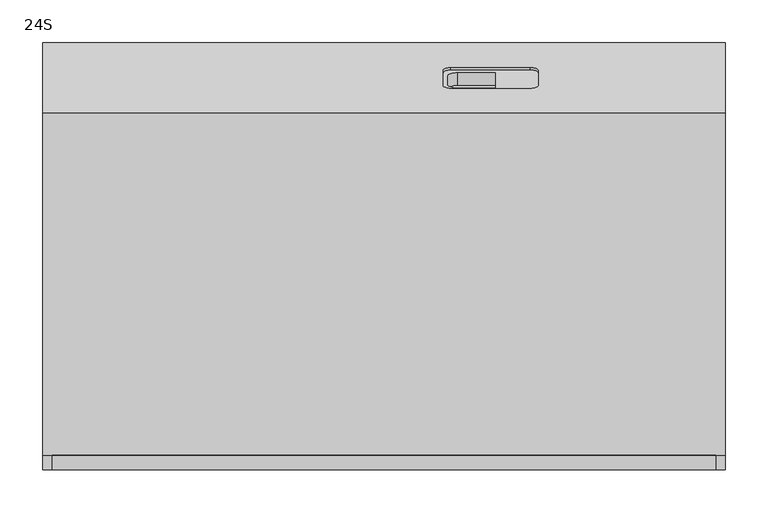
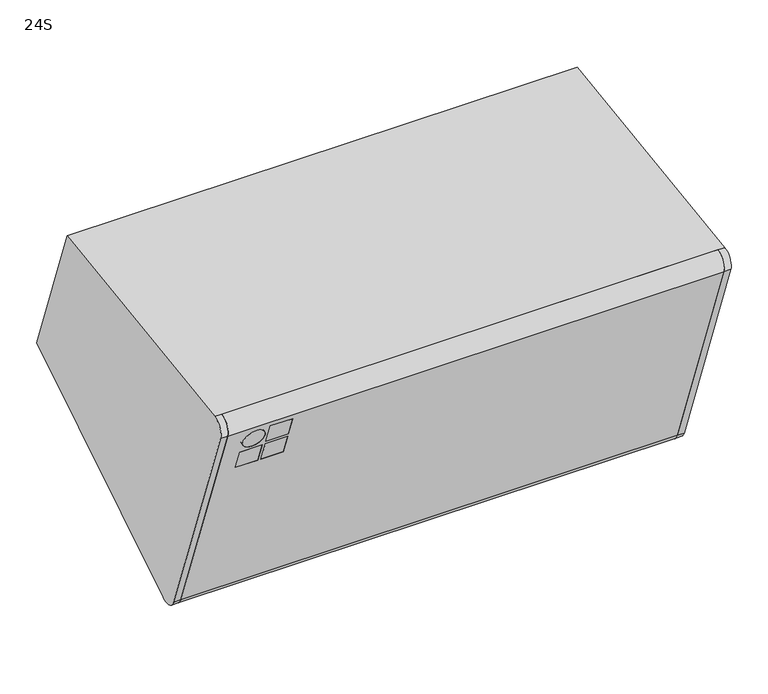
"""IFC4 building model written with IfcOpenShell, lengths in millimetres: proxy geometry, d&b xS-Series 24S Point Source : 24S."""

from ifc_helpers import new_model, si_unit, point, frame, frame_2d, origin, place, context, project, spatial, polyline, circle_curve, trimmed, segment, composite_curve, outline, extrude, source, transform, mapped, element, save
from ifc_brep_helpers import plane_surface, cylinder_surface, revolved_surface, advanced_brep


def proxy_24s_46e50888(model_context):
    return source(origin(), model_context, "Body", "SolidModel", [
        extrude(outline(composite_curve([segment(polyline([(-242.9404064, 124.1083071), (-106.3278662, -251.2315621)]), True, "CONTINUOUS"), segment(trimmed(circle_curve(frame_2d((-115.1645619, -239.1108027)), 15.0), [point((-106.3278662, -251.2315621))], [point((-129.2599512, -244.2411048))], False, "CARTESIAN"), True, "CONTINUOUS"), segment(polyline([(-129.2599512, -244.2411048), (-256.0140233, 104.0128461)]), True, "CONTINUOUS"), segment(trimmed(circle_curve(frame_2d((-241.918634, 109.1431482)), 15.0), [point((-256.0140233, 104.0128461))], [point((-242.9404064, 124.1083071))], False, "CARTESIAN"), True, "CONTINUOUS")], self_intersect=False)), frame((-389.0, 0.0, 0.0), z_axis=(1.0, 0.0, 0.0), x_axis=(0.0, 1.0, 0.0)), (0.0, 0.0, 1.0), 778.0),
        advanced_brep(
        [(-285.0, -245.32158, 60.0165774), (-285.0, -240.6231169, 61.7266781), (-320.0, -240.6231169, 61.7266781), (-320.0, -245.32158, 60.0165774), (-320.0, -252.5938219, 94.6159199), (-320.0, -257.292285, 92.9058192), (-285.0, -252.5938219, 94.6159199), (-285.0, -257.292285, 92.9058192), (-285.0, -231.6407742, 22.4288726), (-285.0, -226.9423111, 24.1389733), (-320.0, -226.9423111, 24.1389733), (-320.0, -231.6407742, 22.4288726), (-320.0, -238.9130161, 57.028215), (-320.0, -243.6114792, 55.3181143), (-285.0, -238.9130161, 57.028215), (-285.0, -243.6114792, 55.3181143), (-325.0, -231.6407742, 22.4288726), (-325.0, -226.9423111, 24.1389733), (-360.0, -226.9423111, 24.1389733), (-360.0, -231.6407742, 22.4288726), (-360.0, -238.9130161, 57.028215), (-360.0, -243.6114792, 55.3181143), (-325.0, -238.9130161, 57.028215), (-325.0, -243.6114792, 55.3181143), (-360.0, -251.3069325, 76.4611983), (-360.0, -246.6084694, 78.171299), (-325.0, -246.6084694, 78.171299), (-325.0, -251.3069325, 76.4611983), (389.0, -133.9584143, -245.9512056), (389.0, -104.5661766, -256.0717646), (389.0, -106.3278662, -251.2315621), (389.0, -129.2599512, -244.2411048), (389.0, -256.0140233, 104.0128461), (389.0, -242.9404064, 124.1083071), (389.0, -244.702096, 128.9485096), (389.0, -260.7124864, 102.3027454), (-389.0, -133.9584143, -245.9512056), (-389.0, -260.7124864, 102.3027454), (-389.0, -244.702096, 128.9485096), (-389.0, -242.9404064, 124.1083071), (-389.0, -256.0140233, 104.0128461), (-389.0, -129.2599512, -244.2411048), (-389.0, -106.3278662, -251.2315621), (-389.0, -104.5661766, -256.0717646)],
        [
            (0, 1),
            (1, 2),
            (2, 3),
            (3, 0),
            (2, 4),
            (4, 5),
            (5, 3),
            (4, 6),
            (6, 7),
            (7, 5),
            (0, 7),
            (6, 1),
            (8, 9),
            (9, 10),
            (10, 11),
            (11, 8),
            (10, 12),
            (12, 13),
            (13, 11),
            (12, 14),
            (14, 15),
            (15, 13),
            (8, 15),
            (14, 9),
            (16, 17),
            (17, 18),
            (18, 19),
            (19, 16),
            (18, 20),
            (20, 21),
            (21, 19),
            (20, 22),
            (22, 23),
            (23, 21),
            (16, 23),
            (22, 17),
            (24, 25),
            (25, 26, circle_curve(frame((-342.5, -246.6084694, 78.171299), z_axis=(0.0, 0.9396926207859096, 0.3420201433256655), x_axis=(1.0, 0.0, 0.0)), 17.5)),
            (26, 27),
            (27, 24, circle_curve(frame((-342.5, -251.3069325, 76.4611983), z_axis=(0.0, -0.9396926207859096, -0.3420201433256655), x_axis=(1.0, 0.0, 0.0)), 17.5)),
            (24, 27, circle_curve(frame((-342.5, -251.3069325, 76.4611983), z_axis=(0.0, -0.9396926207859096, -0.3420201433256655), x_axis=(1.0, 0.0, 0.0)), 17.5)),
            (26, 25, circle_curve(frame((-342.5, -246.6084694, 78.171299), z_axis=(0.0, 0.9396926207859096, 0.3420201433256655), x_axis=(1.0, 0.0, 0.0)), 17.5)),
            (28, 29, circle_curve(frame((389.0, -115.1645619, -239.1108027), z_axis=(1.0, 0.0, 0.0), x_axis=(0.0, -0.9396926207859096, -0.3420201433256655)), 20.0)),
            (29, 30),
            (30, 31, circle_curve(frame((389.0, -115.1645619, -239.1108027), z_axis=(-1.0, 0.0, 0.0), x_axis=(0.0, -0.9396926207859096, -0.3420201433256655)), 15.0)),
            (31, 32),
            (32, 33, circle_curve(frame((389.0, -241.918634, 109.1431482), z_axis=(-1.0, 0.0, 0.0), x_axis=(0.0, -0.9396926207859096, -0.3420201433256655)), 15.0)),
            (33, 34),
            (34, 35, circle_curve(frame((389.0, -241.918634, 109.1431482), z_axis=(1.0, 0.0, 0.0), x_axis=(0.0, -0.9396926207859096, -0.3420201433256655)), 20.0)),
            (35, 28),
            (36, 37),
            (37, 38, circle_curve(frame((-389.0, -241.918634, 109.1431482), z_axis=(-1.0, 0.0, 0.0), x_axis=(0.0, -0.9396926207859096, -0.3420201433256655)), 20.0)),
            (38, 39),
            (39, 40, circle_curve(frame((-389.0, -241.918634, 109.1431482), z_axis=(1.0, 0.0, 0.0), x_axis=(0.0, -0.9396926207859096, -0.3420201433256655)), 15.0)),
            (40, 41),
            (41, 42, circle_curve(frame((-389.0, -115.1645619, -239.1108027), z_axis=(1.0, 0.0, 0.0), x_axis=(0.0, -0.9396926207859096, -0.3420201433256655)), 15.0)),
            (42, 43),
            (43, 36, circle_curve(frame((-389.0, -115.1645619, -239.1108027), z_axis=(-1.0, 0.0, 0.0), x_axis=(0.0, -0.9396926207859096, -0.3420201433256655)), 20.0)),
            (28, 36),
            (43, 29),
            (42, 30),
            (41, 31),
            (40, 32),
            (39, 33),
            (38, 34),
            (37, 35),
        ],
        [
            plane_surface(frame((-320.0, -245.32158, 60.0165774), z_axis=(0.0, -0.3420201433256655, 0.9396926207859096), x_axis=(0.0, 0.9396926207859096, 0.3420201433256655))),
            plane_surface(frame((-320.0, -257.292285, 92.9058192), z_axis=(1.0000000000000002, 0.0, 0.0), x_axis=(0.0, 0.9396926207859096, 0.3420201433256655))),
            plane_surface(frame((-285.0, -257.292285, 92.9058192), z_axis=(0.0, 0.3420201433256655, -0.9396926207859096), x_axis=(0.0, 0.9396926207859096, 0.3420201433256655))),
            plane_surface(frame((-285.0, -245.32158, 60.0165774), z_axis=(-1.0000000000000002, 0.0, 0.0), x_axis=(0.0, 0.9396926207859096, 0.3420201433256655))),
            plane_surface(frame((-320.0, -231.6407742, 22.4288726), z_axis=(0.0, -0.3420201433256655, 0.9396926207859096), x_axis=(0.0, 0.9396926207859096, 0.3420201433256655))),
            plane_surface(frame((-320.0, -243.6114792, 55.3181143), z_axis=(1.0000000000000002, 0.0, 0.0), x_axis=(0.0, 0.9396926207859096, 0.3420201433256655))),
            plane_surface(frame((-285.0, -243.6114792, 55.3181143), z_axis=(0.0, 0.3420201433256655, -0.9396926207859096), x_axis=(0.0, 0.9396926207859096, 0.3420201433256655))),
            plane_surface(frame((-285.0, -231.6407742, 22.4288726), z_axis=(-1.0000000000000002, 0.0, 0.0), x_axis=(0.0, 0.9396926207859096, 0.3420201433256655))),
            plane_surface(frame((-360.0, -231.6407742, 22.4288726), z_axis=(0.0, -0.3420201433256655, 0.9396926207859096), x_axis=(0.0, 0.9396926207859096, 0.3420201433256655))),
            plane_surface(frame((-360.0, -243.6114792, 55.3181143), z_axis=(1.0000000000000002, 0.0, 0.0), x_axis=(0.0, 0.9396926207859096, 0.3420201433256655))),
            plane_surface(frame((-325.0, -243.6114792, 55.3181143), z_axis=(0.0, 0.3420201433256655, -0.9396926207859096), x_axis=(0.0, 0.9396926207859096, 0.3420201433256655))),
            plane_surface(frame((-325.0, -231.6407742, 22.4288726), z_axis=(-1.0000000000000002, 0.0, 0.0), x_axis=(0.0, 0.9396926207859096, 0.3420201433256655))),
            revolved_surface(polyline([(-325.0, -251.30693248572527, 76.46119826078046), (-325.0, -246.60846939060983, 78.17129897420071)]), (-342.5, -194.6882986, 97.0686957), (0.0, -0.9396926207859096, -0.3420201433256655)),
            plane_surface(frame((389.0, -133.9584143, -245.9512056), z_axis=(1.0000000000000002, 0.0, 0.0), x_axis=(0.0, 0.3420201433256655, -0.9396926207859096))),
            plane_surface(frame((-389.0, -133.9584143, -245.9512056), z_axis=(-1.0000000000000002, 0.0, 0.0), x_axis=(0.0, -0.3420201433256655, 0.9396926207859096))),
            cylinder_surface(frame((-389.0, -115.1645619, -239.1108027), z_axis=(1.0, 0.0, 0.0), x_axis=(0.0, -0.9396926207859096, -0.3420201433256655)), 20.0),
            plane_surface(frame((389.0, -104.5661766, -256.0717646), z_axis=(0.0, 0.9396926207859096, 0.3420201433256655), x_axis=(-1.0, 0.0, 0.0))),
            revolved_surface(polyline([(-389.0, -129.25995121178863, -244.24110484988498), (389.0, -129.25995121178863, -244.24110484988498)]), (-389.0, -115.1645619, -239.1108027), (-1.0, 0.0, 0.0)),
            plane_surface(frame((389.0, -129.2599512, -244.2411048), z_axis=(0.0, 0.9396926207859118, 0.34202014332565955), x_axis=(-1.0, 0.0, 0.0))),
            revolved_surface(polyline([(-389.0, -256.01402331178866, 104.01284605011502), (389.0, -256.01402331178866, 104.01284605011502)]), (-389.0, -241.918634, 109.1431482), (-1.0, 0.0, 0.0)),
            plane_surface(frame((389.0, -242.9404064, 124.1083071), z_axis=(0.0, 0.9396926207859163, 0.34202014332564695), x_axis=(-1.0, 0.0, 0.0))),
            cylinder_surface(frame((-389.0, -241.918634, 109.1431482), z_axis=(1.0, 0.0, 0.0), x_axis=(0.0, -0.9396926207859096, -0.3420201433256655)), 20.0),
            plane_surface(frame((389.0, -260.7124864, 102.3027454), z_axis=(0.0, -0.9396926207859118, -0.34202014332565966), x_axis=(-1.0, 0.0, 0.0))),
        ],
        [
            (0, [[1, 2, 3, 4]]),
            (1, [[-3, 5, 6, 7]]),
            (2, [[-6, 8, 9, 10]]),
            (3, [[-1, 11, -9, 12]]),
            (4, [[13, 14, 15, 16]]),
            (5, [[-15, 17, 18, 19]]),
            (6, [[-18, 20, 21, 22]]),
            (7, [[-13, 23, -21, 24]]),
            (8, [[25, 26, 27, 28]]),
            (9, [[-27, 29, 30, 31]]),
            (10, [[-30, 32, 33, 34]]),
            (11, [[-25, 35, -33, 36]]),
            (12, [[37, 38, 39, 40]]),
            (12, [[-37, 41, -39, 42]]),
            (13, [[43, 44, 45, 46, 47, 48, 49, 50]]),
            (14, [[51, 52, 53, 54, 55, 56, 57, 58]]),
            (15, [[-43, 59, -58, 60]]),
            (16, [[-44, -60, -57, 61]]),
            (17, [[-45, -61, -56, 62]]),
            (18, [[-46, -62, -55, 63], [-2, -12, -8, -5], [-14, -24, -20, -17], [-26, -36, -32, -29], [-38, -42]]),
            (19, [[-47, -63, -54, 64]]),
            (20, [[-48, -64, -53, 65]]),
            (21, [[-49, -65, -52, 66]]),
            (22, [[-50, -66, -51, -59], [-4, -7, -10, -11], [-16, -19, -22, -23], [-28, -31, -34, -35], [-40, -41]]),
        ],
    ),
        extrude(outline(polyline([(0.0, -35.0), (0.0, 0.0), (5.0, 0.0), (5.0, -35.0), (0.0, -35.0)])), frame((-320.0, -245.32158, 60.0165774), z_axis=(0.0, -0.3420201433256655, 0.9396926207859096), x_axis=(0.0, 0.9396926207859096, 0.3420201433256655)), (0.0, 0.0, 1.0), 35.0),
        extrude(outline(polyline([(0.0, -35.0), (0.0, 0.0), (5.0, 0.0), (5.0, -35.0), (0.0, -35.0)])), frame((-320.0, -231.6407742, 22.4288726), z_axis=(0.0, -0.3420201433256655, 0.9396926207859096), x_axis=(0.0, 0.9396926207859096, 0.3420201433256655)), (0.0, 0.0, 1.0), 35.0),
        extrude(outline(polyline([(0.0, -35.0), (0.0, 0.0), (5.0, 0.0), (5.0, -35.0), (0.0, -35.0)])), frame((-360.0, -231.6407742, 22.4288726), z_axis=(0.0, -0.3420201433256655, 0.9396926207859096), x_axis=(0.0, 0.9396926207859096, 0.3420201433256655)), (0.0, 0.0, 1.0), 35.0),
        extrude(outline(composite_curve([segment(trimmed(circle_curve(frame_2d((-12.4999999, -57.5)), 17.5), [point((-12.4999999, -75.0))], [point((-12.4999999, -40.0))], False, "CARTESIAN"), True, "CONTINUOUS"), segment(trimmed(circle_curve(frame_2d((-12.4999999, -57.5)), 17.5), [point((-12.4999999, -40.0))], [point((-12.4999999, -75.0))], False, "CARTESIAN"), True, "CONTINUOUS")], self_intersect=False)), frame((-285.0, -255.5821843, 88.207356), z_axis=(0.0, 0.9396926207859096, 0.3420201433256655), x_axis=(0.0, -0.3420201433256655, 0.9396926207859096)), (0.0, 0.0, 1.0), 5.0),
        advanced_brep(
        [(-400.0, 238.6262577, -41.6213306), (-400.0, -104.5661766, -256.0717646), (-400.0, -133.9584143, -245.9512056), (-400.0, -260.7124864, 102.3027454), (-400.0, -244.702096, 128.9485096), (-400.0, 156.0446431, 185.2697908), (400.0, 238.6262577, -41.6213306), (400.0, 156.0446431, 185.2697908), (400.0, -244.702096, 128.9485096), (400.0, -260.7124864, 102.3027454), (400.0, -133.9584143, -245.9512056), (400.0, -104.5661766, -256.0717646), (171.5, 182.5456675, 103.6874114), (180.5, 185.6238488, 95.2301778), (180.5, 203.4088962, 46.3661615), (171.5, 206.4870775, 37.9089279), (78.5, 206.4870775, 37.9089279), (69.5, 203.4088962, 46.3661615), (69.5, 185.6238488, 95.2301778), (78.5, 182.5456675, 103.6874114), (86.5, 185.6342694, 95.2015474), (74.5, 189.7385111, 83.9252359), (74.5, 199.2942339, 57.6711034), (86.5, 203.3984756, 46.394792), (130.5, 203.3984756, 46.394792), (130.5, 185.6342694, 95.2015474), (171.5, 185.3647453, 104.7134718), (180.5, 188.4429266, 96.2562382), (180.5, 206.2279741, 47.392222), (171.5, 209.3061554, 38.9349884), (78.5, 209.3061554, 38.9349884), (69.5, 206.2279741, 47.392222), (69.5, 188.4429266, 96.2562382), (78.5, 185.3647453, 104.7134718), (74.5, 174.7034292, 78.4529136), (86.5, 170.5991875, 89.7292251), (130.5, 170.5991875, 89.7292251), (130.5, 188.3633937, 40.9224697), (86.5, 188.3633937, 40.9224697), (74.5, 184.2591519, 52.1987811), (389.0, -133.9584143, -245.9512056), (389.0, -260.7124864, 102.3027454), (389.0, -244.702096, 128.9485096), (389.0, -104.5661766, -256.0717646), (-389.0, -104.5661766, -256.0717646), (-389.0, -244.702096, 128.9485096), (-389.0, -133.9584143, -245.9512056), (-389.0, -260.7124864, 102.3027454)],
        [
            (0, 1),
            (1, 2, circle_curve(frame((-400.0, -115.1645619, -239.1108027), z_axis=(-1.0, 0.0, 0.0), x_axis=(0.0, -0.9396926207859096, -0.3420201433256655)), 20.0)),
            (2, 3),
            (3, 4, circle_curve(frame((-400.0, -241.918634, 109.1431482), z_axis=(-1.0, 0.0, 0.0), x_axis=(0.0, -0.9396926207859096, -0.3420201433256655)), 20.0)),
            (4, 5),
            (5, 0),
            (6, 7),
            (7, 8),
            (8, 9, circle_curve(frame((400.0, -241.918634, 109.1431482), z_axis=(1.0, 0.0, 0.0), x_axis=(0.0, -0.9396926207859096, -0.3420201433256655)), 20.0)),
            (9, 10),
            (10, 11, circle_curve(frame((400.0, -115.1645619, -239.1108027), z_axis=(1.0, 0.0, 0.0), x_axis=(0.0, -0.9396926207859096, -0.3420201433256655)), 20.0)),
            (11, 6),
            (12, 13, circle_curve(frame((171.5, 185.6238488, 95.2301778), z_axis=(0.0, 0.9396926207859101, 0.34202014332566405), x_axis=(0.0, -0.34202014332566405, 0.9396926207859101)), 9.0)),
            (13, 14),
            (14, 15, circle_curve(frame((171.5, 203.4088962, 46.3661615), z_axis=(0.0, 0.9396926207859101, 0.34202014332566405), x_axis=(0.0, -0.34202014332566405, 0.9396926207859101)), 9.0)),
            (15, 16),
            (16, 17, circle_curve(frame((78.5, 203.4088962, 46.3661615), z_axis=(0.0, 0.9396926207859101, 0.34202014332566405), x_axis=(0.0, -0.34202014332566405, 0.9396926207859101)), 9.0)),
            (17, 18),
            (18, 19, circle_curve(frame((78.5, 185.6238488, 95.2301778), z_axis=(0.0, 0.9396926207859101, 0.34202014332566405), x_axis=(0.0, -0.34202014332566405, 0.9396926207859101)), 9.0)),
            (19, 12),
            (20, 21, circle_curve(frame((86.5, 189.7385111, 83.9252359), z_axis=(0.0, -0.9396926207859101, -0.34202014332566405), x_axis=(0.0, -0.34202014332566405, 0.9396926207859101)), 12.0)),
            (21, 22),
            (22, 23, circle_curve(frame((86.5, 199.2942339, 57.6711034), z_axis=(0.0, -0.9396926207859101, -0.34202014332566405), x_axis=(0.0, -0.34202014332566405, 0.9396926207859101)), 12.0)),
            (23, 24),
            (24, 25),
            (25, 20),
            (12, 26),
            (26, 27, circle_curve(frame((171.5, 188.4429266, 96.2562382), z_axis=(0.0, 0.9396926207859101, 0.34202014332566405), x_axis=(0.0, -0.34202014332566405, 0.9396926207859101)), 9.0)),
            (27, 13),
            (27, 28),
            (28, 14),
            (28, 29, circle_curve(frame((171.5, 206.2279741, 47.392222), z_axis=(0.0, 0.9396926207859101, 0.34202014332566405), x_axis=(0.0, -0.34202014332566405, 0.9396926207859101)), 9.0)),
            (29, 15),
            (29, 30),
            (30, 16),
            (30, 31, circle_curve(frame((78.5, 206.2279741, 47.392222), z_axis=(0.0, 0.9396926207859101, 0.34202014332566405), x_axis=(0.0, -0.34202014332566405, 0.9396926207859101)), 9.0)),
            (31, 17),
            (31, 32),
            (32, 18),
            (32, 33, circle_curve(frame((78.5, 188.4429266, 96.2562382), z_axis=(0.0, 0.9396926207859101, 0.34202014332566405), x_axis=(0.0, -0.34202014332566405, 0.9396926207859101)), 9.0)),
            (33, 19),
            (33, 26),
            (34, 35, circle_curve(frame((86.5, 174.7034292, 78.4529136), z_axis=(0.0, 0.9396926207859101, 0.34202014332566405), x_axis=(0.0, -0.34202014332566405, 0.9396926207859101)), 12.0)),
            (35, 36),
            (36, 37),
            (37, 38),
            (38, 39, circle_curve(frame((86.5, 184.2591519, 52.1987811), z_axis=(0.0, 0.9396926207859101, 0.34202014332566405), x_axis=(0.0, -0.34202014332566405, 0.9396926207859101)), 12.0)),
            (39, 34),
            (40, 41),
            (41, 42, circle_curve(frame((389.0, -241.918634, 109.1431482), z_axis=(-1.0, 0.0, 0.0), x_axis=(0.0, -0.9396926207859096, -0.3420201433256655)), 20.0)),
            (42, 43),
            (43, 40, circle_curve(frame((389.0, -115.1645619, -239.1108027), z_axis=(-1.0, 0.0, 0.0), x_axis=(0.0, -0.9396926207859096, -0.3420201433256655)), 20.0)),
            (0, 6),
            (11, 43),
            (43, 44),
            (44, 1),
            (42, 45),
            (45, 44),
            (4, 45),
            (42, 8),
            (7, 5),
            (10, 40),
            (9, 41),
            (34, 21),
            (20, 35),
            (25, 36),
            (24, 37),
            (23, 38),
            (22, 39),
            (46, 44, circle_curve(frame((-389.0, -115.1645619, -239.1108027), z_axis=(1.0, 0.0, 0.0), x_axis=(0.0, -0.9396926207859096, -0.3420201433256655)), 20.0)),
            (45, 47, circle_curve(frame((-389.0, -241.918634, 109.1431482), z_axis=(1.0, 0.0, 0.0), x_axis=(0.0, -0.9396926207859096, -0.3420201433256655)), 20.0)),
            (47, 46),
            (46, 2),
            (3, 47),
        ],
        [
            plane_surface(frame((-400.0, -104.5661766, -256.0717646), z_axis=(-1.0000000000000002, 0.0, 0.0), x_axis=(0.0, -0.8480480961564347, -0.5299192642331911))),
            plane_surface(frame((400.0, -104.5661766, -256.0717646), z_axis=(1.0000000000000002, 0.0, 0.0), x_axis=(0.0, 0.8480480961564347, 0.5299192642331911))),
            plane_surface(frame((171.5, 182.5456675, 103.6874114), z_axis=(0.0, 0.9396926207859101, 0.34202014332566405), x_axis=(-1.0, 0.0, 0.0))),
            revolved_surface(polyline([(171.5, 185.36474530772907, 104.71347179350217), (171.5, 182.54566750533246, 103.68741138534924)]), (171.5, 185.6238488, 95.2301778), (0.0, 0.9396926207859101, 0.34202014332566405)),
            plane_surface(frame((180.5, 188.4429266, 96.2562382), z_axis=(-1.0000000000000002, 0.0, 0.0), x_axis=(0.0, -0.9396926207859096, -0.3420201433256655))),
            revolved_surface(polyline([(171.5, 203.14979283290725, 55.849455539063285), (171.5, 200.33071491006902, 54.82339508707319)]), (171.5, 203.4088962, 46.3661615), (0.0, 0.9396926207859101, 0.34202014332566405)),
            plane_surface(frame((171.5, 209.3061554, 38.9349884), z_axis=(0.0, -0.3420201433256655, 0.9396926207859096), x_axis=(0.0, -0.9396926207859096, -0.3420201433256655))),
            revolved_surface(polyline([(78.5, 203.14979283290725, 55.849455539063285), (78.5, 200.33071491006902, 54.82339508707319)]), (78.5, 203.4088962, 46.3661615), (0.0, 0.9396926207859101, 0.34202014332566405)),
            plane_surface(frame((69.5, 206.2279741, 47.392222), z_axis=(1.0000000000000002, 0.0, 0.0), x_axis=(0.0, -0.9396926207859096, -0.3420201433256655))),
            revolved_surface(polyline([(78.5, 185.36474530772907, 104.71347179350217), (78.5, 182.54566750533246, 103.68741138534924)]), (78.5, 185.6238488, 95.2301778), (0.0, 0.9396926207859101, 0.34202014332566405)),
            plane_surface(frame((78.5, 185.3647453, 104.7134718), z_axis=(0.0, 0.3420201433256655, -0.9396926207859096), x_axis=(0.0, -0.9396926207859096, -0.3420201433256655))),
            plane_surface(frame((86.5, 170.5991875, 89.7292251), z_axis=(0.0, 0.9396926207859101, 0.34202014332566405), x_axis=(-1.0, 0.0, 0.0))),
            plane_surface(frame((389.0, -133.9584143, -245.9512056), z_axis=(-1.0000000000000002, 0.0, 0.0), x_axis=(0.0, -0.3420201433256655, 0.9396926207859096))),
            plane_surface(frame((-400.0, 238.6262577, -41.6213306), z_axis=(0.0, 0.5299192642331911, -0.8480480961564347), x_axis=(1.0, 0.0, 0.0))),
            plane_surface(frame((-400.0, -104.5661766, -256.0717646), z_axis=(0.0, -0.9396926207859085, -0.3420201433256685), x_axis=(1.0, 0.0, 0.0))),
            plane_surface(frame((-400.0, -244.702096, 128.9485096), z_axis=(0.0, -0.13917310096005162, 0.9902680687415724), x_axis=(1.0, 0.0, 0.0))),
            plane_surface(frame((-400.0, 156.0446431, 185.2697908), z_axis=(0.0, 0.9396926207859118, 0.34202014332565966), x_axis=(1.0, 0.0, 0.0))),
            cylinder_surface(frame((389.0, -115.1645619, -239.1108027), z_axis=(1.0, 0.0, 0.0), x_axis=(0.0, -0.9396926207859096, -0.3420201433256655)), 20.0),
            plane_surface(frame((400.0, -260.7124864, 102.3027454), z_axis=(0.0, -0.9396926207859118, -0.34202014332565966), x_axis=(-1.0, 0.0, 0.0))),
            revolved_surface(polyline([(86.5, 185.63426941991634, 95.20154734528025), (86.5, 170.599187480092, 89.72922504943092)]), (86.5, 174.7034292, 78.4529136), (0.0, 0.9396926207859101, 0.34202014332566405)),
            plane_surface(frame((86.5, 188.4533473, 96.2276078), z_axis=(0.0, 0.3420201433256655, -0.9396926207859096), x_axis=(0.0, -0.9396926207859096, -0.3420201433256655))),
            plane_surface(frame((130.5, 188.4533473, 96.2276078), z_axis=(-1.0000000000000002, 0.0, 0.0), x_axis=(0.0, -0.9396926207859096, -0.3420201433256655))),
            plane_surface(frame((130.5, 206.2175535, 47.4208524), z_axis=(0.0, -0.3420201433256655, 0.9396926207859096), x_axis=(0.0, -0.9396926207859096, -0.3420201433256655))),
            revolved_surface(polyline([(86.5, 195.18999217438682, 68.94741486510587), (86.5, 180.15491018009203, 63.47509254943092)]), (86.5, 184.2591519, 52.1987811), (0.0, 0.9396926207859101, 0.34202014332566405)),
            plane_surface(frame((74.5, 202.1133117, 58.6971639), z_axis=(1.0000000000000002, 0.0, 0.0), x_axis=(0.0, -0.9396926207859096, -0.3420201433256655))),
            plane_surface(frame((-389.0, -133.9584143, -245.9512056), z_axis=(1.0000000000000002, 0.0, 0.0), x_axis=(0.0, 0.3420201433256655, -0.9396926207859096))),
            cylinder_surface(frame((389.0, -241.918634, 109.1431482), z_axis=(1.0, 0.0, 0.0), x_axis=(0.0, -0.9396926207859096, -0.3420201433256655)), 20.0),
            cylinder_surface(frame((-400.0, -115.1645619, -239.1108027), z_axis=(1.0, 0.0, 0.0), x_axis=(0.0, -0.9396926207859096, -0.3420201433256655)), 20.0),
            cylinder_surface(frame((-400.0, -241.918634, 109.1431482), z_axis=(1.0, 0.0, 0.0), x_axis=(0.0, -0.9396926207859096, -0.3420201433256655)), 20.0),
            plane_surface(frame((-389.0, -260.7124864, 102.3027454), z_axis=(0.0, -0.9396926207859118, -0.34202014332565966), x_axis=(-1.0, 0.0, 0.0))),
        ],
        [
            (0, [[1, 2, 3, 4, 5, 6]]),
            (1, [[7, 8, 9, 10, 11, 12]]),
            (2, [[13, 14, 15, 16, 17, 18, 19, 20], [21, 22, 23, 24, 25, 26]]),
            (3, [[-13, 27, 28, 29]]),
            (4, [[-14, -29, 30, 31]]),
            (5, [[-15, -31, 32, 33]]),
            (6, [[-16, -33, 34, 35]]),
            (7, [[-17, -35, 36, 37]]),
            (8, [[-18, -37, 38, 39]]),
            (9, [[-19, -39, 40, 41]]),
            (10, [[-20, -41, 42, -27]]),
            (11, [[43, 44, 45, 46, 47, 48]]),
            (12, [[49, 50, 51, 52]]),
            (13, [[-1, 53, -12, 54, 55, 56]]),
            (14, [[-51, 57, 58, -55]]),
            (15, [[-5, 59, -57, 60, -8, 61]]),
            (16, [[-6, -61, -7, -53], [-28, -42, -40, -38, -36, -34, -32, -30]]),
            (17, [[-11, 62, -52, -54]]),
            (18, [[-10, 63, -49, -62]]),
            (19, [[-43, 64, -21, 65]]),
            (20, [[-44, -65, -26, 66]]),
            (21, [[-45, -66, -25, 67]]),
            (22, [[-46, -67, -24, 68]]),
            (23, [[-47, -68, -23, 69]]),
            (24, [[-48, -69, -22, -64]]),
            (25, [[70, -58, 71, 72]]),
            (26, [[-9, -60, -50, -63]]),
            (27, [[-70, 73, -2, -56]]),
            (28, [[-71, -59, -4, 74]]),
            (29, [[-72, -74, -3, -73]]),
        ],
    ),
    ])


if __name__ == "__main__":
    model = new_model("IFC4")
    model_context = context("Model", 3, world=origin())
    ifc_project = project(units=[si_unit("LENGTHUNIT", "METRE", prefix="MILLI")], contexts=[model_context])
    site = spatial("IfcSite", under=ifc_project)
    building = spatial("IfcBuilding", under=site)
    placement = place(None, origin())
    proxy_24s_shape = proxy_24s_46e50888(model_context)
    element("IfcBuildingElementProxy", 1, Name="d&b xS-Series 24S Point Source : 24S", ObjectType="d&b xS-Series 24S Point Source : 24S", at=placement, inside=building, context=model_context, shape_type="MappedRepresentation", body=[
        mapped(proxy_24s_shape, transform((0.0, 0.0, 0.0), x_axis=(1.0, 0.0, 0.0), y_axis=(0.0, 1.0, 0.0), z_axis=(0.0, 0.0, 1.0))),
    ])
    save(model, "model.ifc")
